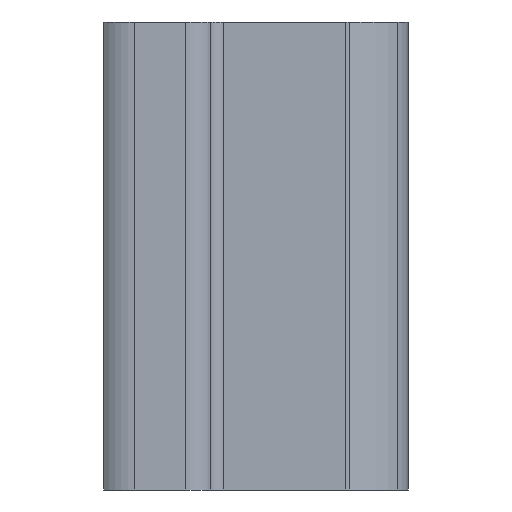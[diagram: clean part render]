
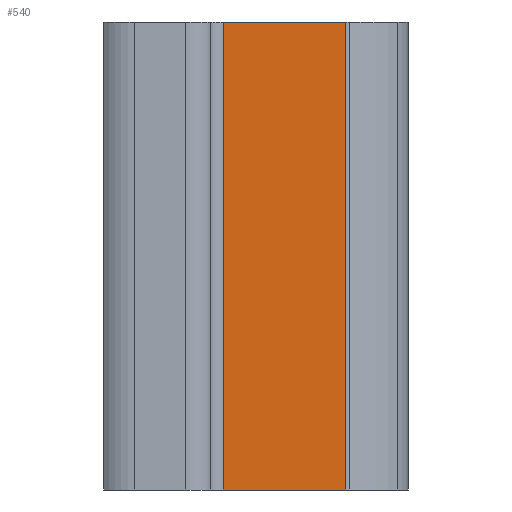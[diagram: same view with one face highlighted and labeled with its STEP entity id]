
A CAD part, left-side view. The second image highlights one B-rep face of the part: STEP entity #540.
In plain terms, the highlighted planar face has unit normal (-1, 0, 0).
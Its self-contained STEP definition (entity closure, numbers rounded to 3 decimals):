
#18 = CARTESIAN_POINT ( 'NONE',  ( -15., -16.637, 0. ) ) ;
#30 = VECTOR ( 'NONE', #1646, 1000. ) ;
#100 = ORIENTED_EDGE ( 'NONE', *, *, #1054, .T. ) ;
#123 = CARTESIAN_POINT ( 'NONE',  ( -15., 9.498, 100. ) ) ;
#243 = EDGE_CURVE ( 'NONE', #670, #1621, #1785, .T. ) ;
#249 = CARTESIAN_POINT ( 'NONE',  ( -15., -16.637, 100. ) ) ;
#286 = CARTESIAN_POINT ( 'NONE',  ( -15., -16.637, 100. ) ) ;
#290 = AXIS2_PLACEMENT_3D ( 'NONE', #627, #1155, #1708 ) ;
#360 = LINE ( 'NONE', #750, #1638 ) ;
#369 = DIRECTION ( 'NONE',  ( 0., -1., 0. ) ) ;
#540 = ADVANCED_FACE ( 'NONE', ( #749 ), #1463, .F. ) ;
#543 = EDGE_CURVE ( 'NONE', #670, #715, #1747, .T. ) ;
#544 = CARTESIAN_POINT ( 'NONE',  ( -15., -15., 100. ) ) ;
#627 = CARTESIAN_POINT ( 'NONE',  ( -15., -15., 100. ) ) ;
#655 = LINE ( 'NONE', #249, #1200 ) ;
#670 = VERTEX_POINT ( 'NONE', #123 ) ;
#715 = VERTEX_POINT ( 'NONE', #1525 ) ;
#749 = FACE_OUTER_BOUND ( 'NONE', #1371, .T. ) ;
#750 = CARTESIAN_POINT ( 'NONE',  ( -15., -15., 0. ) ) ;
#758 = VECTOR ( 'NONE', #1065, 1000. ) ;
#760 = CARTESIAN_POINT ( 'NONE',  ( -15., 9.498, 0. ) ) ;
#1054 = EDGE_CURVE ( 'NONE', #1230, #1621, #655, .T. ) ;
#1065 = DIRECTION ( 'NONE',  ( 0., 0., -1. ) ) ;
#1155 = DIRECTION ( 'NONE',  ( 1., 0., 0. ) ) ;
#1200 = VECTOR ( 'NONE', #1753, 1000. ) ;
#1230 = VERTEX_POINT ( 'NONE', #18 ) ;
#1371 = EDGE_LOOP ( 'NONE', ( #1694, #1587, #1736, #100 ) ) ;
#1463 = PLANE ( 'NONE',  #290 ) ;
#1525 = CARTESIAN_POINT ( 'NONE',  ( -15., 9.498, 0. ) ) ;
#1587 = ORIENTED_EDGE ( 'NONE', *, *, #543, .T. ) ;
#1621 = VERTEX_POINT ( 'NONE', #286 ) ;
#1638 = VECTOR ( 'NONE', #369, 1000. ) ;
#1646 = DIRECTION ( 'NONE',  ( 0., -1., 0. ) ) ;
#1694 = ORIENTED_EDGE ( 'NONE', *, *, #243, .F. ) ;
#1708 = DIRECTION ( 'NONE',  ( 0., 0., -1. ) ) ;
#1736 = ORIENTED_EDGE ( 'NONE', *, *, #1789, .T. ) ;
#1747 = LINE ( 'NONE', #760, #758 ) ;
#1753 = DIRECTION ( 'NONE',  ( 0., 0., 1. ) ) ;
#1785 = LINE ( 'NONE', #544, #30 ) ;
#1789 = EDGE_CURVE ( 'NONE', #715, #1230, #360, .T. ) ;
